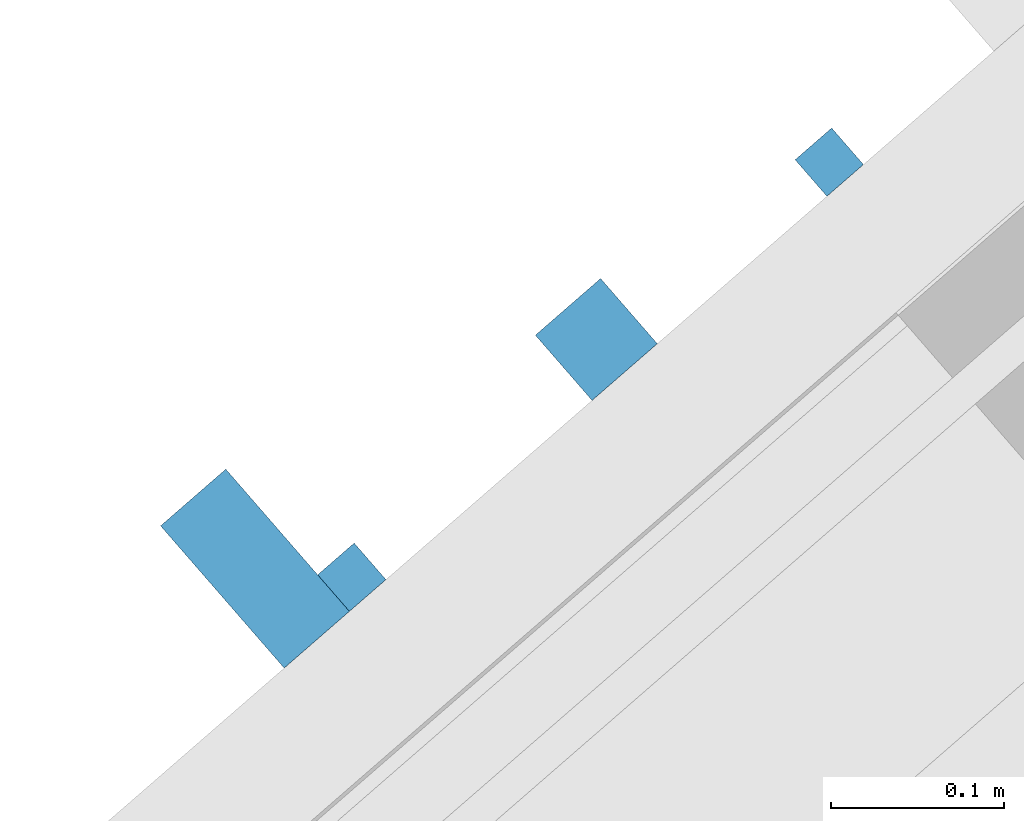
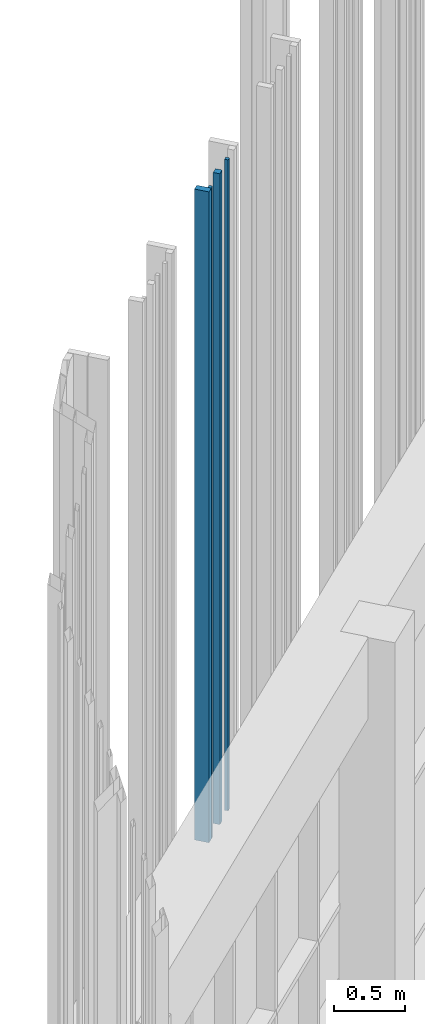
# One storey, part 135 of 390: 4 walls.
"""IFC2X3 building model written with IfcOpenShell, lengths in millimetres."""

import ifcopenshell
import ifcopenshell.guid

model = None  # the IFC model being written
_history = None  # IfcOwnerHistory: only IFC2X3 demands one
_inside = {}  # id of a spatial element -> (the spatial element, [elements in it])
_under = {}  # id of a project, library or spatial element -> (it, [spatial elements below it])
_declared = {}  # id of a project -> (the project, [libraries it declares])
_typed = {}  # id of a type object -> (the type object, [elements of that type])
_made_of = {}  # id of a material, layer set ... -> (it, [elements and type objects made of it])


def new_model(schema):
    """Start an empty IFC model of exactly this schema.

    Asked for "IFC4X3", IfcOpenShell would pick the latest addendum, in which some entities
    have other attributes; the version numbers below select the first issue.
    IFC2X3 requires an IfcOwnerHistory on every rooted entity: one is made here for all.
    """
    global model, _history
    if schema == "IFC4X3":
        model = ifcopenshell.file(schema_version=(4, 3, 0, 0))
    else:
        model = ifcopenshell.file(schema=schema)
    _inside.clear()
    _under.clear()
    _declared.clear()
    _typed.clear()
    _made_of.clear()
    _history = None
    if model.schema == "IFC2X3":
        org = make("IfcOrganization", Name="unknown")
        user = make(
            "IfcPersonAndOrganization",
            ThePerson=make("IfcPerson", FamilyName="unknown"),
            TheOrganization=org,
        )
        app = make(
            "IfcApplication",
            ApplicationDeveloper=org,
            Version="unknown",
            ApplicationFullName="unknown",
            ApplicationIdentifier="unknown",
        )
        _history = make(
            "IfcOwnerHistory",
            OwningUser=user,
            OwningApplication=app,
            ChangeAction="ADDED",
            CreationDate=0,
        )
    return model


def make(cls, **values):
    """One entity of the class cls with the attributes given. An attribute that is None is left unset."""
    return model.create_entity(
        cls, **{name: value for name, value in values.items() if value is not None}
    )


def entity(cls, *values):
    """Any entity or typed value of the class cls, its attributes in the order of the schema. None: left unset."""
    e = model.create_entity(cls)
    for i, value in enumerate(values):
        if value is not None:
            e[i] = value
    return e


def rooted(cls, **values):
    """An entity with a GlobalId (a new one), such as an element, a storey or a relation."""
    return make(cls, GlobalId=ifcopenshell.guid.new(), OwnerHistory=_history, **values)


def si_unit(unit_type, name, prefix=None):
    """IfcSIUnit, for example si_unit("LENGTHUNIT", "METRE", prefix="MILLI")."""
    return make("IfcSIUnit", UnitType=unit_type, Prefix=prefix, Name=name)


def converted_unit(unit_type, name, factor, base, dimensions=None, offset=None):
    """IfcConversionBasedUnit, such as the inch: factor (a typed value) times the base unit."""
    return make(
        "IfcConversionBasedUnit"
        if offset is None
        else "IfcConversionBasedUnitWithOffset",
        ConversionOffset=offset,
        Dimensions=None
        if dimensions is None
        else entity("IfcDimensionalExponents", *dimensions),
        UnitType=unit_type,
        Name=name,
        ConversionFactor=make(
            "IfcMeasureWithUnit", ValueComponent=factor, UnitComponent=base
        ),
    )


def derived_unit(unit_type, elements):
    """IfcDerivedUnit: a product of units, each with its exponent."""
    return make(
        "IfcDerivedUnit",
        Elements=[
            make("IfcDerivedUnitElement", Unit=unit, Exponent=power)
            for unit, power in elements
        ],
        UnitType=unit_type,
    )


def money_unit(currency):
    """IfcMonetaryUnit."""
    return make("IfcMonetaryUnit", Currency=currency)


def assignment(units):
    """IfcUnitAssignment: the units of a project."""
    return None if units is None else make("IfcUnitAssignment", Units=units)


def point(xyz):
    """IfcCartesianPoint."""
    return None if xyz is None else make("IfcCartesianPoint", Coordinates=xyz)


def direction(xyz):
    """IfcDirection."""
    return None if xyz is None else make("IfcDirection", DirectionRatios=xyz)


def frame(location, z_axis=None, x_axis=None):
    """IfcAxis2Placement3D, a coordinate frame: its origin and axes. An axis left out is left unset."""
    return make(
        "IfcAxis2Placement3D",
        Location=point(location),
        Axis=direction(z_axis),
        RefDirection=direction(x_axis),
    )


def origin_with_axes():
    """The frame at (0, 0, 0) with the z axis (0, 0, 1) and the x axis (1, 0, 0) written out."""
    return frame((0.0, 0.0, 0.0), z_axis=(0.0, 0.0, 1.0), x_axis=(1.0, 0.0, 0.0))


def place(relative_to, where):
    """IfcLocalPlacement: puts the frame where relative to a parent placement (None: the world)."""
    return make(
        "IfcLocalPlacement", PlacementRelTo=relative_to, RelativePlacement=where
    )


def context(
    kind, dimensions, precision=None, world=None, true_north=None, identifier=None
):
    """IfcGeometricRepresentationContext, for example the 3D "Model" context."""
    return make(
        "IfcGeometricRepresentationContext",
        ContextIdentifier=identifier,
        ContextType=kind,
        CoordinateSpaceDimension=dimensions,
        Precision=precision,
        WorldCoordinateSystem=world,
        TrueNorth=true_north,
    )


def subcontext(parent, identifier, kind, view, scale=None):
    """IfcGeometricRepresentationSubContext, for example "Body" below "Model"."""
    return make(
        "IfcGeometricRepresentationSubContext",
        ContextIdentifier=identifier,
        ContextType=kind,
        ParentContext=parent,
        TargetScale=scale,
        TargetView=view,
    )


def project(units=None, contexts=None):
    """IfcProject with its units and contexts."""
    return rooted(
        "IfcProject",
        Name="project",
        RepresentationContexts=contexts,
        UnitsInContext=assignment(units),
    )


def spatial(cls, under=None, at=None, **own):
    """A site, building, storey or space (cls), placed at a placement, below another one or the project."""
    s = rooted(cls, ObjectPlacement=at, **own)
    if under is not None:
        _under.setdefault(under.id(), (under, []))[1].append(s)
    return s


def faces_of(points, faces, orient=None, outer=None):
    """IfcFace entities. A face is a list of loops; a loop is a list of indices into points, from 0.

    orient and outer hold one flag for each loop. By default every Orientation is true, the
    first loop of a face is its IfcFaceOuterBound and the others are IfcFaceBound.
    """
    made = []
    for i, loops in enumerate(faces):
        bounds = []
        for j, loop in enumerate(loops):
            is_outer = j == 0 if outer is None else outer[i][j]
            bounds.append(
                make(
                    "IfcFaceOuterBound" if is_outer else "IfcFaceBound",
                    Bound=make("IfcPolyLoop", Polygon=[points[k] for k in loop]),
                    Orientation=True if orient is None else orient[i][j],
                )
            )
        made.append(make("IfcFace", Bounds=bounds))
    return made


def faceted_brep(points, faces, orient=None, outer=None, voids=None):
    """IfcFacetedBrep: a solid bounded by flat faces; with voids (closed shells), ...WithVoids."""
    shared = [point(p) for p in points]
    hull = make("IfcClosedShell", CfsFaces=faces_of(shared, faces, orient, outer))
    if voids is None:
        return make("IfcFacetedBrep", Outer=hull)
    return make(
        "IfcFacetedBrepWithVoids",
        Outer=hull,
        Voids=[
            make(cls, CfsFaces=faces_of(shared, fs, o, b)) for cls, fs, o, b in voids
        ],
    )


def shape(context_of_items, identifier, shape_type, items):
    """IfcShapeRepresentation: the items that make up one representation, for example the "Body"."""
    return make(
        "IfcShapeRepresentation",
        ContextOfItems=context_of_items,
        RepresentationIdentifier=identifier,
        RepresentationType=shape_type,
        Items=items,
    )


def material(Name=None, Category=None):
    """IfcMaterial."""
    return make("IfcMaterial", Name=Name, Category=Category)


def made_of(thing, what):
    """Note that an element or type object is made of a material, layer set ...; save() writes the relation."""
    if what is not None:
        _made_of.setdefault(what.id(), (what, []))[1].append(thing)
    return thing


def type_object(cls, material=None, **own):
    """A type object (cls), such as IfcWallType, which elements share."""
    return made_of(rooted(cls, **own), material)


def element(
    cls,
    number,
    at=None,
    inside=None,
    cuts=None,
    type_object=None,
    material=None,
    context=None,
    identifier="Body",
    shape_type=None,
    held_by="IfcProductDefinitionShape",
    body=None,
    shapes=None,
    **own,
):
    """One element of the class cls, such as IfcWall. Its Tag is "e" and its number.

    at: its placement. inside: the storey or other place that contains it. cuts: it is an
    opening in that element (IfcRelVoidsElement). A single representation is given by context,
    identifier, shape_type and body (its items); several are given by shapes. held_by: the class
    of the entity that holds the representations. save() writes the other relations.
    """
    e = rooted(cls, Tag="e%d" % number, ObjectPlacement=at, **own)
    if body is not None:
        shapes = [shape(context, identifier, shape_type, body)]
    if shapes is not None:
        e.Representation = make(held_by, Representations=shapes)
    if inside is not None:
        _inside.setdefault(inside.id(), (inside, []))[1].append(e)
    if cuts is not None:
        rooted(
            "IfcRelVoidsElement", RelatingBuildingElement=cuts, RelatedOpeningElement=e
        )
    if type_object is not None:
        _typed.setdefault(type_object.id(), (type_object, []))[1].append(e)
    return made_of(e, material)


def aggregate(whole, parts):
    """IfcRelAggregates: a whole, such as a stair, and the parts it consists of."""
    return rooted("IfcRelAggregates", RelatingObject=whole, RelatedObjects=parts)


def save(model, path):
    """Write the relations noted so far, then the file.

    IfcRelAggregates (storeys below a building ...), IfcRelContainedInSpatialStructure (elements
    in a storey), IfcRelDefinesByType, IfcRelAssociatesMaterial and IfcRelDeclares: one each for
    every whole, place, type object, material and project.
    """
    for whole, parts in _under.values():
        aggregate(whole, parts)
    for where, things in _inside.values():
        rooted(
            "IfcRelContainedInSpatialStructure",
            RelatedElements=things,
            RelatingStructure=where,
        )
    for kind, things in _typed.values():
        rooted("IfcRelDefinesByType", RelatedObjects=things, RelatingType=kind)
    for what, things in _made_of.values():
        rooted("IfcRelAssociatesMaterial", RelatedObjects=things, RelatingMaterial=what)
    for by, libraries in _declared.values():
        rooted("IfcRelDeclares", RelatingContext=by, RelatedDefinitions=libraries)
    model.write(path)


model = new_model("IFC2X3")

# Units and contexts
model_context = context("Model", 3, precision=1e-05, world=origin_with_axes(), true_north=direction((0.0, 1.0)))
body_context = subcontext(model_context, "Body", "Model", "MODEL_VIEW")
ifc_project = project(units=[si_unit("LENGTHUNIT", "METRE", prefix="MILLI"), si_unit("AREAUNIT", "SQUARE_METRE"), si_unit("VOLUMEUNIT", "CUBIC_METRE"), converted_unit("PLANEANGLEUNIT", "DEGREE", entity("IfcPlaneAngleMeasure", 0.0174532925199), si_unit("PLANEANGLEUNIT", "RADIAN"), dimensions=[0, 0, 0, 0, 0, 0, 0]), si_unit("SOLIDANGLEUNIT", "STERADIAN"), money_unit("EUR"), converted_unit("TIMEUNIT", "Year", entity("IfcTimeMeasure", 31556926.0), si_unit("TIMEUNIT", "SECOND"), dimensions=[0, 0, 1, 0, 0, 0, 0]), si_unit("MASSUNIT", "GRAM", prefix="KILO"), si_unit("THERMODYNAMICTEMPERATUREUNIT", "DEGREE_CELSIUS"), si_unit("LUMINOUSINTENSITYUNIT", "LUMEN"), si_unit("ENERGYUNIT", "JOULE", prefix="MEGA"), derived_unit("THERMALCONDUCTANCEUNIT", [(si_unit("POWERUNIT", "WATT"), 1), (si_unit("LENGTHUNIT", "METRE"), -1), (si_unit("THERMODYNAMICTEMPERATUREUNIT", "KELVIN"), -1)]), derived_unit("SPECIFICHEATCAPACITYUNIT", [(si_unit("ENERGYUNIT", "JOULE"), 1), (si_unit("MASSUNIT", "GRAM", prefix="KILO"), -1), (si_unit("THERMODYNAMICTEMPERATUREUNIT", "KELVIN"), -1)]), derived_unit("MASSDENSITYUNIT", [(si_unit("MASSUNIT", "GRAM", prefix="KILO"), 1), (si_unit("VOLUMEUNIT", "CUBIC_METRE"), -1)])], contexts=[model_context])

# Site, building, storey
site_placement = place(None, origin_with_axes())
site = spatial("IfcSite", under=ifc_project, at=site_placement, Name="Site", CompositionType="ELEMENT")
building_placement = place(site_placement, origin_with_axes())
building = spatial("IfcBuilding", under=site, at=building_placement, Name="Building", CompositionType="ELEMENT")
storey_placement = place(building_placement, origin_with_axes())
storey = spatial("IfcBuildingStorey", under=building, at=storey_placement, Name="1 korrus", CompositionType="ELEMENT", Elevation=0.0)

# Walls
ifc_material = material(Name="Site specified")
wall_type = type_object("IfcWallType", Name="Puitfassaadi ribistik", PredefinedType="NOTDEFINED")
wall_1_placement = place(storey_placement, frame((125154.757633, 78817.2116269, 4248.16638884), z_axis=(0.0, 0.0, 1.0), x_axis=(0.754709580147, 0.656059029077, 0.0)))
element("IfcWall", 1, at=wall_1_placement, inside=storey, type_object=wall_type, material=ifc_material, Name="Site specified", context=body_context, shape_type="Brep", body=[
    faceted_brep([(14.0, 14.0, 5616.83361116), (14.0, 14.0, 0.0), (-14.0, 14.0, 0.0), (-14.0, 14.0, 5616.83361116), (14.0, -14.0, 5616.83361116), (14.0, -14.0, 0.0), (-14.0, -14.0, 0.0), (-14.0, -14.0, 5616.83361116)], [[[0, 1, 2, 3]], [[4, 5, 1, 0]], [[2, 1, 5, 6]], [[3, 2, 6, 7]], [[4, 0, 3, 7]], [[7, 6, 5, 4]]]),
])
wall_2_placement = place(storey_placement, frame((125019.995064, 78714.6394564, 4248.16638884), z_axis=(0.0, 0.0, 1.0), x_axis=(0.754709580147, 0.656059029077, 0.0)))
element("IfcWall", 2, at=wall_2_placement, inside=storey, type_object=wall_type, material=ifc_material, Name="Site specified", context=body_context, shape_type="Brep", body=[
    faceted_brep([(25.0, 25.0, 5616.83361116), (25.0, 25.0, 0.0), (-25.0, 25.0, 0.0), (-25.0, 25.0, 5616.83361116), (25.0, -25.0, 5616.83361116), (25.0, -25.0, 0.0), (-25.0, -25.0, 0.0), (-25.0, -25.0, 5616.83361116)], [[[0, 1, 2, 3]], [[4, 5, 1, 0]], [[2, 1, 5, 6]], [[3, 2, 6, 7]], [[4, 0, 3, 7]], [[7, 6, 5, 4]]]),
])
wall_3_placement = place(storey_placement, frame((124878.533926, 78577.0940223, 4248.16638884), z_axis=(0.0, 0.0, 1.0), x_axis=(0.754709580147, 0.656059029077, 0.0)))
element("IfcWall", 3, at=wall_3_placement, inside=storey, type_object=wall_type, material=ifc_material, Name="Site specified", context=body_context, shape_type="Brep", body=[
    faceted_brep([(14.0, 14.0, 5616.83361116), (14.0, 14.0, 0.0), (-14.0, 14.0, 0.0), (-14.0, 14.0, 5616.83361116), (14.0, -14.0, 5616.83361116), (14.0, -14.0, 0.0), (-14.0, -14.0, 0.0), (-14.0, -14.0, 5616.83361116)], [[[0, 1, 2, 3]], [[4, 5, 1, 0]], [[2, 1, 5, 6]], [[3, 2, 6, 7]], [[4, 0, 3, 7]], [[7, 6, 5, 4]]]),
])
wall_4_placement = place(storey_placement, frame((124822.529862, 78582.0734581, 4248.16638884), z_axis=(0.0, 0.0, 1.0), x_axis=(0.754709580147, 0.656059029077, 0.0)))
element("IfcWall", 4, at=wall_4_placement, inside=storey, type_object=wall_type, material=ifc_material, Name="Site specified", context=body_context, shape_type="Brep", body=[
    faceted_brep([(25.0, 54.5, 5616.83361116), (25.0, 54.5, 0.0), (-25.0, 54.5, 0.0), (-25.0, 54.5, 5616.83361116), (25.0, -54.5, 5616.83361116), (25.0, -54.5, 0.0), (-25.0, -54.5, 0.0), (-25.0, -54.5, 5616.83361116)], [[[0, 1, 2, 3]], [[4, 5, 1, 0]], [[2, 1, 5, 6]], [[3, 2, 6, 7]], [[4, 0, 3, 7]], [[7, 6, 5, 4]]]),
])

save(model, "model.ifc")
